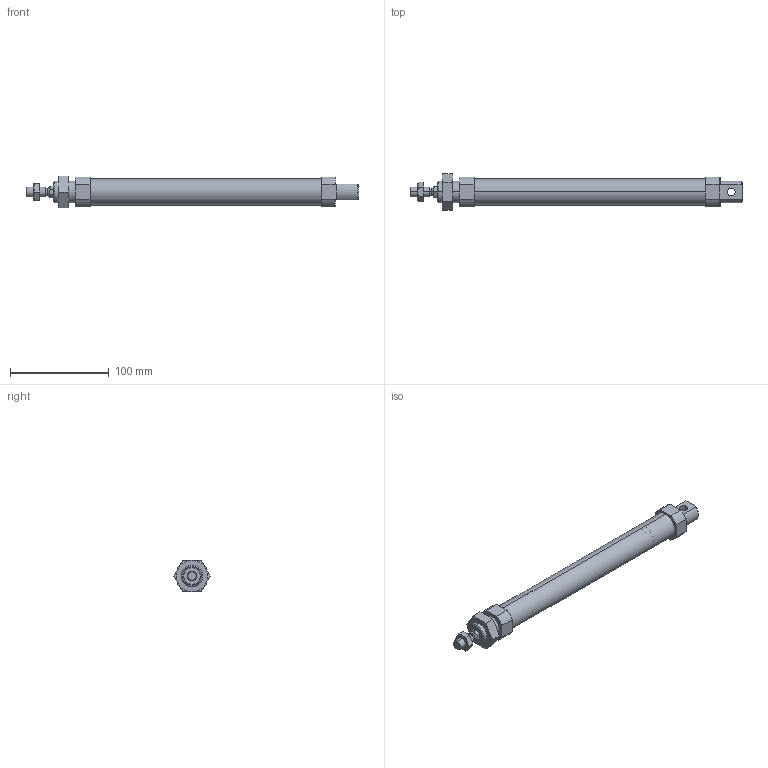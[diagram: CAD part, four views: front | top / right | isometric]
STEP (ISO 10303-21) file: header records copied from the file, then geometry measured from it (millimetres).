
FILE_DESCRIPTION (( 'STEP AP203' ), '1' );
FILE_NAME ('CSMK25-200.STEP', '2020-04-02T10:52:39', ( '' ), ( '' ), 'SwSTEP 2.0', 'SolidWorks 2019', '' );
FILE_SCHEMA (( 'CONFIG_CONTROL_DESIGN' ));
Length unit declared in the file: millimetre
Products named in the file (1): CSMK25-200
Bounding box: 337 x 36.95 x 32 mm (x, y, z)
Volume: 97500.9 mm3; surface area: 61057.5 mm2
Topology: 4 solids, 4 shells, 135 faces, 310 edges, 188 vertices
Faces by surface type: plane 53, cone 50, cylinder 32
Entity records: 4281 total; most frequent: CARTESIAN_POINT 1196, DIRECTION 632, ORIENTED_EDGE 612, EDGE_CURVE 306, AXIS2_PLACEMENT_3D 248, VERTEX_POINT 188, EDGE_LOOP 150, LINE 136
